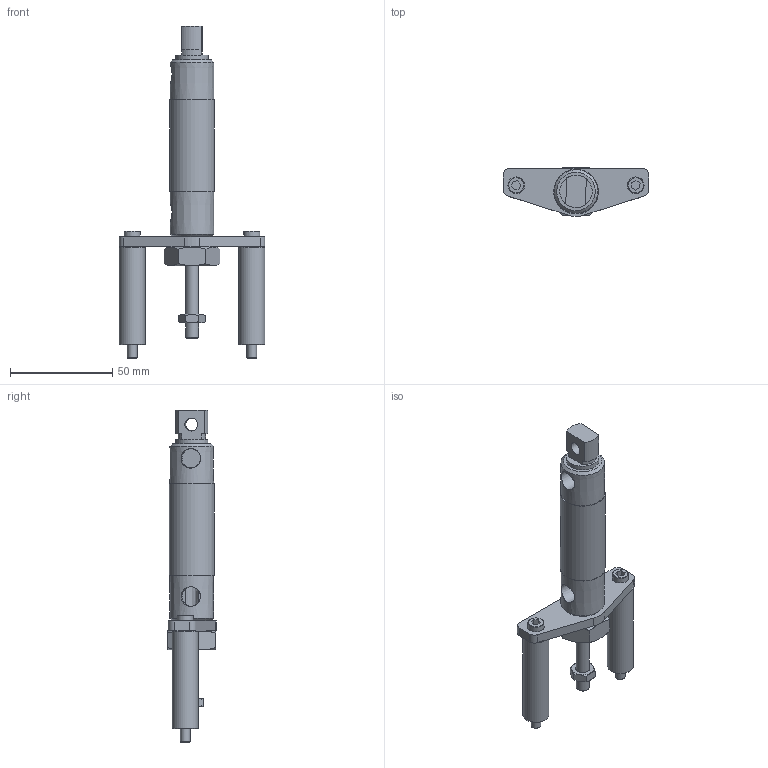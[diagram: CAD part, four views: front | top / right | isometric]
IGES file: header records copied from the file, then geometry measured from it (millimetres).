
Global section: file name: No Iges File Name specified; native system: AutoDesk Inventor R6.0; preprocessor: AutoDesk Inventor Iges Exporter R6.0; author: No Author specified; organization: No Organization specified; date: 20080102.170618; units: inch
Bounding box: 71.14 x 23.88 x 162.31 mm (x, y, z)
Surface area: 27001.7 mm2 (no closed solid volume)
Topology: 0 solids, 0 shells, 132 faces, 493 edges, 438 vertices
Faces by surface type: plane 68, revolution 55, bspline 9
